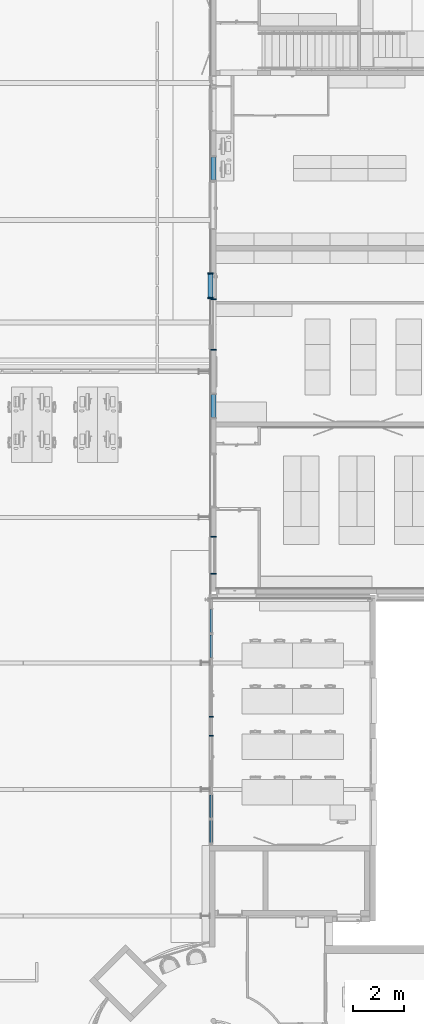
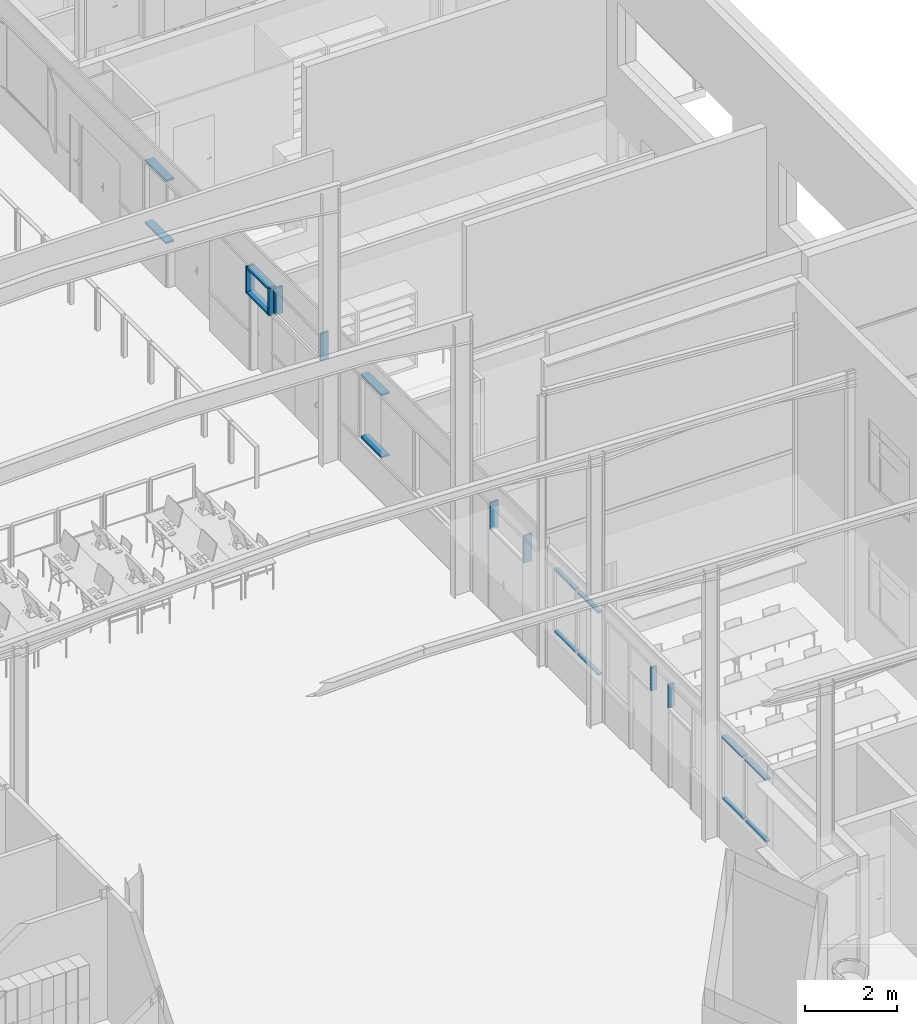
# One storey, part 23 of 137: 22 members, 11 elements without a shape of their own.
"""IFC2X3 building model written with IfcOpenShell, lengths in centimetres."""

import ifcopenshell
import ifcopenshell.guid

model = None  # the IFC model being written
_history = None  # IfcOwnerHistory: only IFC2X3 demands one
_inside = {}  # id of a spatial element -> (the spatial element, [elements in it])
_under = {}  # id of a project, library or spatial element -> (it, [spatial elements below it])
_declared = {}  # id of a project -> (the project, [libraries it declares])
_typed = {}  # id of a type object -> (the type object, [elements of that type])
_made_of = {}  # id of a material, layer set ... -> (it, [elements and type objects made of it])


def new_model(schema):
    """Start an empty IFC model of exactly this schema.

    Asked for "IFC4X3", IfcOpenShell would pick the latest addendum, in which some entities
    have other attributes; the version numbers below select the first issue.
    IFC2X3 requires an IfcOwnerHistory on every rooted entity: one is made here for all.
    """
    global model, _history
    if schema == "IFC4X3":
        model = ifcopenshell.file(schema_version=(4, 3, 0, 0))
    else:
        model = ifcopenshell.file(schema=schema)
    _inside.clear()
    _under.clear()
    _declared.clear()
    _typed.clear()
    _made_of.clear()
    _history = None
    if model.schema == "IFC2X3":
        org = make("IfcOrganization", Name="unknown")
        user = make(
            "IfcPersonAndOrganization",
            ThePerson=make("IfcPerson", FamilyName="unknown"),
            TheOrganization=org,
        )
        app = make(
            "IfcApplication",
            ApplicationDeveloper=org,
            Version="unknown",
            ApplicationFullName="unknown",
            ApplicationIdentifier="unknown",
        )
        _history = make(
            "IfcOwnerHistory",
            OwningUser=user,
            OwningApplication=app,
            ChangeAction="ADDED",
            CreationDate=0,
        )
    return model


def make(cls, **values):
    """One entity of the class cls with the attributes given. An attribute that is None is left unset."""
    return model.create_entity(
        cls, **{name: value for name, value in values.items() if value is not None}
    )


def entity(cls, *values):
    """Any entity or typed value of the class cls, its attributes in the order of the schema. None: left unset."""
    e = model.create_entity(cls)
    for i, value in enumerate(values):
        if value is not None:
            e[i] = value
    return e


def rooted(cls, **values):
    """An entity with a GlobalId (a new one), such as an element, a storey or a relation."""
    return make(cls, GlobalId=ifcopenshell.guid.new(), OwnerHistory=_history, **values)


def si_unit(unit_type, name, prefix=None):
    """IfcSIUnit, for example si_unit("LENGTHUNIT", "METRE", prefix="MILLI")."""
    return make("IfcSIUnit", UnitType=unit_type, Prefix=prefix, Name=name)


def converted_unit(unit_type, name, factor, base, dimensions=None, offset=None):
    """IfcConversionBasedUnit, such as the inch: factor (a typed value) times the base unit."""
    return make(
        "IfcConversionBasedUnit"
        if offset is None
        else "IfcConversionBasedUnitWithOffset",
        ConversionOffset=offset,
        Dimensions=None
        if dimensions is None
        else entity("IfcDimensionalExponents", *dimensions),
        UnitType=unit_type,
        Name=name,
        ConversionFactor=make(
            "IfcMeasureWithUnit", ValueComponent=factor, UnitComponent=base
        ),
    )


def derived_unit(unit_type, elements):
    """IfcDerivedUnit: a product of units, each with its exponent."""
    return make(
        "IfcDerivedUnit",
        Elements=[
            make("IfcDerivedUnitElement", Unit=unit, Exponent=power)
            for unit, power in elements
        ],
        UnitType=unit_type,
    )


def assignment(units):
    """IfcUnitAssignment: the units of a project."""
    return None if units is None else make("IfcUnitAssignment", Units=units)


def point(xyz):
    """IfcCartesianPoint."""
    return None if xyz is None else make("IfcCartesianPoint", Coordinates=xyz)


def direction(xyz):
    """IfcDirection."""
    return None if xyz is None else make("IfcDirection", DirectionRatios=xyz)


def frame(location, z_axis=None, x_axis=None):
    """IfcAxis2Placement3D, a coordinate frame: its origin and axes. An axis left out is left unset."""
    return make(
        "IfcAxis2Placement3D",
        Location=point(location),
        Axis=direction(z_axis),
        RefDirection=direction(x_axis),
    )


def frame_2d(location, x_axis=None):
    """IfcAxis2Placement2D, a coordinate frame in the plane: its origin and x axis."""
    return make(
        "IfcAxis2Placement2D", Location=point(location), RefDirection=direction(x_axis)
    )


def origin():
    """The frame at (0, 0, 0) with its axes left unset."""
    return frame((0.0, 0.0, 0.0))


def origin_2d_with_axis():
    """The frame at (0, 0) in the plane with the x axis (1, 0) written out."""
    return frame_2d((0.0, 0.0), x_axis=(1.0, 0.0))


def place(relative_to, where):
    """IfcLocalPlacement: puts the frame where relative to a parent placement (None: the world)."""
    return make(
        "IfcLocalPlacement", PlacementRelTo=relative_to, RelativePlacement=where
    )


def context(
    kind, dimensions, precision=None, world=None, true_north=None, identifier=None
):
    """IfcGeometricRepresentationContext, for example the 3D "Model" context."""
    return make(
        "IfcGeometricRepresentationContext",
        ContextIdentifier=identifier,
        ContextType=kind,
        CoordinateSpaceDimension=dimensions,
        Precision=precision,
        WorldCoordinateSystem=world,
        TrueNorth=true_north,
    )


def subcontext(parent, identifier, kind, view, scale=None):
    """IfcGeometricRepresentationSubContext, for example "Body" below "Model"."""
    return make(
        "IfcGeometricRepresentationSubContext",
        ContextIdentifier=identifier,
        ContextType=kind,
        ParentContext=parent,
        TargetScale=scale,
        TargetView=view,
    )


def project(units=None, contexts=None):
    """IfcProject with its units and contexts."""
    return rooted(
        "IfcProject",
        Name="project",
        RepresentationContexts=contexts,
        UnitsInContext=assignment(units),
    )


def spatial(cls, under=None, at=None, **own):
    """A site, building, storey or space (cls), placed at a placement, below another one or the project."""
    s = rooted(cls, ObjectPlacement=at, **own)
    if under is not None:
        _under.setdefault(under.id(), (under, []))[1].append(s)
    return s


def profile(cls, at=None, kind="AREA", **sizes):
    """A parametric profile (cls). Its sizes go by their IFC names, for example OverallWidth=200.0."""
    return make(cls, ProfileType=kind, Position=at, **sizes)


def rectangle(**sizes):
    """IfcRectangleProfileDef."""
    return profile("IfcRectangleProfileDef", **sizes)


def extrude(swept, where, along, depth):
    """IfcExtrudedAreaSolid: the profile swept, set in the frame where, extruded along a direction by depth."""
    return make(
        "IfcExtrudedAreaSolid",
        SweptArea=swept,
        Position=where,
        ExtrudedDirection=direction(along),
        Depth=depth,
    )


def shape(context_of_items, identifier, shape_type, items):
    """IfcShapeRepresentation: the items that make up one representation, for example the "Body"."""
    return make(
        "IfcShapeRepresentation",
        ContextOfItems=context_of_items,
        RepresentationIdentifier=identifier,
        RepresentationType=shape_type,
        Items=items,
    )


def material(Name=None, Category=None):
    """IfcMaterial."""
    return make("IfcMaterial", Name=Name, Category=Category)


def made_of(thing, what):
    """Note that an element or type object is made of a material, layer set ...; save() writes the relation."""
    if what is not None:
        _made_of.setdefault(what.id(), (what, []))[1].append(thing)
    return thing


def type_object(cls, material=None, **own):
    """A type object (cls), such as IfcWallType, which elements share."""
    return made_of(rooted(cls, **own), material)


def element(
    cls,
    number,
    at=None,
    inside=None,
    cuts=None,
    type_object=None,
    material=None,
    context=None,
    identifier="Body",
    shape_type=None,
    held_by="IfcProductDefinitionShape",
    body=None,
    shapes=None,
    **own,
):
    """One element of the class cls, such as IfcWall. Its Tag is "e" and its number.

    at: its placement. inside: the storey or other place that contains it. cuts: it is an
    opening in that element (IfcRelVoidsElement). A single representation is given by context,
    identifier, shape_type and body (its items); several are given by shapes. held_by: the class
    of the entity that holds the representations. save() writes the other relations.
    """
    e = rooted(cls, Tag="e%d" % number, ObjectPlacement=at, **own)
    if body is not None:
        shapes = [shape(context, identifier, shape_type, body)]
    if shapes is not None:
        e.Representation = make(held_by, Representations=shapes)
    if inside is not None:
        _inside.setdefault(inside.id(), (inside, []))[1].append(e)
    if cuts is not None:
        rooted(
            "IfcRelVoidsElement", RelatingBuildingElement=cuts, RelatedOpeningElement=e
        )
    if type_object is not None:
        _typed.setdefault(type_object.id(), (type_object, []))[1].append(e)
    return made_of(e, material)


def aggregate(whole, parts):
    """IfcRelAggregates: a whole, such as a stair, and the parts it consists of."""
    return rooted("IfcRelAggregates", RelatingObject=whole, RelatedObjects=parts)


def save(model, path):
    """Write the relations noted so far, then the file.

    IfcRelAggregates (storeys below a building ...), IfcRelContainedInSpatialStructure (elements
    in a storey), IfcRelDefinesByType, IfcRelAssociatesMaterial and IfcRelDeclares: one each for
    every whole, place, type object, material and project.
    """
    for whole, parts in _under.values():
        aggregate(whole, parts)
    for where, things in _inside.values():
        rooted(
            "IfcRelContainedInSpatialStructure",
            RelatedElements=things,
            RelatingStructure=where,
        )
    for kind, things in _typed.values():
        rooted("IfcRelDefinesByType", RelatedObjects=things, RelatingType=kind)
    for what, things in _made_of.values():
        rooted("IfcRelAssociatesMaterial", RelatedObjects=things, RelatingMaterial=what)
    for by, libraries in _declared.values():
        rooted("IfcRelDeclares", RelatingContext=by, RelatedDefinitions=libraries)
    model.write(path)


model = new_model("IFC2X3")

# Units and contexts
model_context = context("Model", 3, precision=0.001, world=origin(), true_north=direction((6.12303176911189e-17, 1.0)))
body_context = subcontext(model_context, "Body", "Model", "MODEL_VIEW")
ifc_project = project(units=[si_unit("LENGTHUNIT", "METRE", prefix="CENTI"), si_unit("AREAUNIT", "SQUARE_METRE"), si_unit("VOLUMEUNIT", "CUBIC_METRE"), converted_unit("PLANEANGLEUNIT", "DEGREE", entity("IfcRatioMeasure", 0.0174532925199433), si_unit("PLANEANGLEUNIT", "RADIAN"), dimensions=[0, 0, 0, 0, 0, 0, 0]), si_unit("MASSUNIT", "GRAM", prefix="KILO"), si_unit("TIMEUNIT", "SECOND"), si_unit("FREQUENCYUNIT", "HERTZ"), si_unit("THERMODYNAMICTEMPERATUREUNIT", "DEGREE_CELSIUS"), derived_unit("THERMALTRANSMITTANCEUNIT", [(si_unit("MASSUNIT", "GRAM", prefix="KILO"), 1), (si_unit("THERMODYNAMICTEMPERATUREUNIT", "KELVIN"), -1), (si_unit("TIMEUNIT", "SECOND"), -3)]), derived_unit("VOLUMETRICFLOWRATEUNIT", [(si_unit("LENGTHUNIT", "METRE"), 3), (si_unit("TIMEUNIT", "SECOND"), -1)]), si_unit("ELECTRICCURRENTUNIT", "AMPERE"), si_unit("ELECTRICVOLTAGEUNIT", "VOLT"), si_unit("POWERUNIT", "WATT"), si_unit("FORCEUNIT", "NEWTON", prefix="KILO"), si_unit("ILLUMINANCEUNIT", "LUX"), si_unit("LUMINOUSFLUXUNIT", "LUMEN"), si_unit("LUMINOUSINTENSITYUNIT", "CANDELA"), derived_unit("USERDEFINED", [(si_unit("MASSUNIT", "GRAM", prefix="KILO"), -1), (si_unit("LENGTHUNIT", "METRE"), -2), (si_unit("TIMEUNIT", "SECOND"), 3), (si_unit("LUMINOUSFLUXUNIT", "LUMEN"), 1)]), derived_unit("LINEARVELOCITYUNIT", [(si_unit("LENGTHUNIT", "METRE"), 1), (si_unit("TIMEUNIT", "SECOND"), -1)]), si_unit("PRESSUREUNIT", "PASCAL"), derived_unit("USERDEFINED", [(si_unit("LENGTHUNIT", "METRE"), -2), (si_unit("MASSUNIT", "GRAM", prefix="KILO"), 1), (si_unit("TIMEUNIT", "SECOND"), -2)])], contexts=[model_context])

# Site, building, storey
site_placement = place(None, frame((8.62739174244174, -249.285249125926, 0.0)))
site = spatial("IfcSite", under=ifc_project, at=site_placement, Name="Default", CompositionType="ELEMENT")
building_placement = place(site_placement, origin())
building = spatial("IfcBuilding", under=site, at=building_placement, CompositionType="ELEMENT")
storey_placement = place(building_placement, origin())
storey = spatial("IfcBuildingStorey", under=building, at=storey_placement, Name="RDC", CompositionType="ELEMENT", Elevation=-8.82465566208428e-11)

# Curtain wall, members
curtain_wall_type = type_object("IfcCurtainWallType", Name="Mur-rideau:Simple panneau", PredefinedType="NOTDEFINED")
curtain_wall_1_placement = place(storey_placement, origin())
curtain_wall_1 = element("IfcCurtainWall", 1, at=curtain_wall_1_placement, inside=storey, type_object=curtain_wall_type, Name="Mur-rideau:Simple panneau", ObjectType="Mur-rideau:Simple panneau")
ifc_material = material(Name="Plastique, blanc opaque")
member_1_placement = place(curtain_wall_1_placement, origin())
member_1 = element("IfcMember", 2, at=member_1_placement, material=ifc_material, Name="Mur-rideau:Simple panneau", ObjectType="Mur-rideau:Simple panneau", context=body_context, shape_type="SweptSolid", body=[
    extrude(rectangle(XDim=5.0, YDim=19.9999999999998, at=frame_2d((2.70894418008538e-14, 0.0), x_axis=(1.0, 0.0))), frame((3043.90482779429, 3422.18519336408, 277.500000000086), z_axis=(0.0, -1.0, 0.0), x_axis=(0.0, 0.0, -1.0)), (0.0, 0.0, 1.0), 90.0000000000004),
])
member_2_placement = place(curtain_wall_1_placement, origin())
member_2 = element("IfcMember", 3, at=member_2_placement, material=ifc_material, Name="Mur-rideau:Simple panneau", ObjectType="Mur-rideau:Simple panneau", context=body_context, shape_type="SweptSolid", body=[
    extrude(rectangle(XDim=5.0, YDim=19.9999999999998, at=origin_2d_with_axis()), frame((3043.90482779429, 3332.18519336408, 112.500000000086), z_axis=(0.0, 1.0, 0.0), x_axis=(0.0, 0.0, -1.0)), (0.0, 0.0, 1.0), 90.0000000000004),
])
aggregate(curtain_wall_1, [member_1, member_2])

curtain_wall_2_placement = place(storey_placement, origin())
curtain_wall_2 = element("IfcCurtainWall", 4, at=curtain_wall_2_placement, inside=storey, type_object=curtain_wall_type, Name="Mur-rideau:Simple panneau", ObjectType="Mur-rideau:Simple panneau")
member_3_placement = place(curtain_wall_2_placement, origin())
member_3 = element("IfcMember", 5, at=member_3_placement, material=ifc_material, Name="Mur-rideau:Simple panneau", ObjectType="Mur-rideau:Simple panneau", context=body_context, shape_type="SweptSolid", body=[
    extrude(rectangle(XDim=19.9999999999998, YDim=5.00000000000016, at=frame_2d((0.0, 2.16715534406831e-13), x_axis=(1.0, 0.0))), frame((3043.90482779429, 2860.34806445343, 280.0), z_axis=(0.0, 0.0, -1.0), x_axis=(-1.0, 0.0, 0.0)), (0.0, 0.0, 1.0), 71.9999999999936),
])
member_4_placement = place(curtain_wall_2_placement, origin())
member_4 = element("IfcMember", 6, at=member_4_placement, material=ifc_material, Name="Mur-rideau:Simple panneau", ObjectType="Mur-rideau:Simple panneau", context=body_context, shape_type="SweptSolid", body=[
    extrude(rectangle(XDim=19.9999999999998, YDim=5.00000000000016, at=frame_2d((4.33431068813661e-13, 2.16715534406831e-13), x_axis=(1.0, 0.0))), frame((3043.90482779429, 2714.34806445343, 208.0), z_axis=(0.0, 0.0, 1.0), x_axis=(-1.0, 0.0, 0.0)), (0.0, 0.0, 1.0), 71.9999999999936),
])
aggregate(curtain_wall_2, [member_3, member_4])

curtain_wall_3_placement = place(storey_placement, origin())
curtain_wall_3 = element("IfcCurtainWall", 7, at=curtain_wall_3_placement, inside=storey, type_object=curtain_wall_type, Name="Mur-rideau:Simple panneau", ObjectType="Mur-rideau:Simple panneau")
member_5_placement = place(curtain_wall_3_placement, origin())
member_5 = element("IfcMember", 8, at=member_5_placement, material=ifc_material, Name="Mur-rideau:Simple panneau", ObjectType="Mur-rideau:Simple panneau", context=body_context, shape_type="SweptSolid", body=[
    extrude(rectangle(XDim=19.9999999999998, YDim=5.00000000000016, at=frame_2d((0.0, 2.16715534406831e-13), x_axis=(1.0, 0.0))), frame((3031.90482779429, 3900.6851933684, 280.0), z_axis=(0.0, 0.0, -1.0), x_axis=(-1.0, 0.0, 0.0)), (0.0, 0.0, 1.0), 71.9999999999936),
])
member_6_placement = place(curtain_wall_3_placement, origin())
member_6 = element("IfcMember", 9, at=member_6_placement, material=ifc_material, Name="Mur-rideau:Simple panneau", ObjectType="Mur-rideau:Simple panneau", context=body_context, shape_type="SweptSolid", body=[
    extrude(rectangle(XDim=5.0, YDim=19.9999999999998, at=frame_2d((2.70894418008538e-14, 0.0), x_axis=(1.0, 0.0))), frame((3031.90482779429, 3806.18519336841, 277.500000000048), z_axis=(0.0, 1.0, 0.0), x_axis=(0.0, 0.0, -1.0)), (0.0, 0.0, 1.0), 91.9999999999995),
])
member_7_placement = place(curtain_wall_3_placement, origin())
member_7 = element("IfcMember", 10, at=member_7_placement, material=ifc_material, Name="Mur-rideau:Simple panneau", ObjectType="Mur-rideau:Simple panneau", context=body_context, shape_type="SweptSolid", body=[
    extrude(rectangle(XDim=19.9999999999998, YDim=5.00000000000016, at=frame_2d((-4.33431068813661e-13, -2.16715534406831e-13), x_axis=(1.0, 0.0))), frame((3031.90482779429, 3803.68519336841, 208.0), z_axis=(0.0, 0.0, 1.0), x_axis=(-1.0, 0.0, 0.0)), (0.0, 0.0, 1.0), 71.9999999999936),
])
member_8_placement = place(curtain_wall_3_placement, origin())
member_8 = element("IfcMember", 11, at=member_8_placement, material=ifc_material, Name="Mur-rideau:Simple panneau", ObjectType="Mur-rideau:Simple panneau", context=body_context, shape_type="SweptSolid", body=[
    extrude(rectangle(XDim=5.0, YDim=19.9999999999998, at=origin_2d_with_axis()), frame((3031.90482779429, 3898.1851933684, 210.500000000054), z_axis=(0.0, -1.0, 0.0), x_axis=(0.0, 0.0, -1.0)), (0.0, 0.0, 1.0), 91.9999999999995),
])
aggregate(curtain_wall_3, [member_5, member_6, member_7, member_8])

curtain_wall_4_placement = place(storey_placement, origin())
curtain_wall_4 = element("IfcCurtainWall", 12, at=curtain_wall_4_placement, inside=storey, type_object=curtain_wall_type, Name="Mur-rideau:Simple panneau", ObjectType="Mur-rideau:Simple panneau")
member_9_placement = place(curtain_wall_4_placement, origin())
member_9 = element("IfcMember", 13, at=member_9_placement, material=ifc_material, Name="Mur-rideau:Simple panneau", ObjectType="Mur-rideau:Simple panneau", context=body_context, shape_type="SweptSolid", body=[
    extrude(rectangle(XDim=5.0, YDim=19.9999999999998, at=frame_2d((2.70894418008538e-14, 0.0), x_axis=(1.0, 0.0))), frame((3043.9048277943, 4360.18519336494, 277.500000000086), z_axis=(0.0, -1.0, 0.0), x_axis=(0.0, 0.0, -1.0)), (0.0, 0.0, 1.0), 90.0000000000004),
])
member_10_placement = place(curtain_wall_4_placement, origin())
member_10 = element("IfcMember", 14, at=member_10_placement, material=ifc_material, Name="Mur-rideau:Simple panneau", ObjectType="Mur-rideau:Simple panneau", context=body_context, shape_type="SweptSolid", body=[
    extrude(rectangle(XDim=5.0, YDim=19.9999999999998, at=frame_2d((0.0, -4.33431068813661e-13), x_axis=(1.0, 0.0))), frame((3043.9048277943, 4270.18519336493, 112.500000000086), z_axis=(0.0, 1.0, 0.0), x_axis=(0.0, 0.0, -1.0)), (0.0, 0.0, 1.0), 90.0000000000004),
])
aggregate(curtain_wall_4, [member_9, member_10])

# Curtain wall, member
curtain_wall_5_placement = place(storey_placement, origin())
curtain_wall_5 = element("IfcCurtainWall", 15, at=curtain_wall_5_placement, inside=storey, type_object=curtain_wall_type, Name="Mur-rideau:Simple panneau", ObjectType="Mur-rideau:Simple panneau")
member_11_placement = place(curtain_wall_5_placement, origin())
member_11 = element("IfcMember", 16, at=member_11_placement, material=ifc_material, Name="Mur-rideau:Simple panneau:661", ObjectType="Mur-rideau:Simple panneau:661", context=body_context, shape_type="SweptSolid", body=[
    extrude(rectangle(XDim=15.0000000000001, YDim=5.00000000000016, at=frame_2d((0.0, 2.16715534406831e-13), x_axis=(1.0, 0.0))), frame((3034.90482780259, 2149.48020807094, 275.0), z_axis=(0.0, 0.0, -1.0), x_axis=(-1.0, 0.0, 0.0)), (0.0, 0.0, 1.0), 62.0),
])
aggregate(curtain_wall_5, [member_11])

# Curtain wall, members
curtain_wall_6_placement = place(storey_placement, origin())
curtain_wall_6 = element("IfcCurtainWall", 17, at=curtain_wall_6_placement, inside=storey, type_object=curtain_wall_type, Name="Mur-rideau:Simple panneau", ObjectType="Mur-rideau:Simple panneau")
member_12_placement = place(curtain_wall_6_placement, origin())
member_12 = element("IfcMember", 18, at=member_12_placement, material=ifc_material, Name="Mur-rideau:Simple panneau:661", ObjectType="Mur-rideau:Simple panneau:661", context=body_context, shape_type="SweptSolid", body=[
    extrude(rectangle(XDim=5.0, YDim=15.0000000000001, at=frame_2d((2.70894418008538e-14, 0.0), x_axis=(1.0, 0.0))), frame((3034.90482780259, 1750.98020806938, 277.500000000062), z_axis=(0.0, 1.0, 0.0), x_axis=(0.0, 0.0, -1.0)), (0.0, 0.0, 1.0), 90.0000000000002),
])
member_13_placement = place(curtain_wall_6_placement, origin())
member_13 = element("IfcMember", 19, at=member_13_placement, material=ifc_material, Name="Mur-rideau:Simple panneau", ObjectType="Mur-rideau:Simple panneau", context=body_context, shape_type="SweptSolid", body=[
    extrude(rectangle(XDim=5.0, YDim=10.0000000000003, at=frame_2d((0.0, 4.33431068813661e-13), x_axis=(1.0, 0.0))), frame((3034.90482780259, 1840.98020806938, 112.500000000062), z_axis=(0.0, -1.0, 0.0), x_axis=(0.0, 0.0, -1.0)), (0.0, 0.0, 1.0), 89.9999999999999),
])
aggregate(curtain_wall_6, [member_12, member_13])

curtain_wall_7_placement = place(storey_placement, origin())
curtain_wall_7 = element("IfcCurtainWall", 20, at=curtain_wall_7_placement, inside=storey, type_object=curtain_wall_type, Name="Mur-rideau:Simple panneau", ObjectType="Mur-rideau:Simple panneau")
member_14_placement = place(curtain_wall_7_placement, origin())
member_14 = element("IfcMember", 21, at=member_14_placement, material=ifc_material, Name="Mur-rideau:Simple panneau:661", ObjectType="Mur-rideau:Simple panneau:661", context=body_context, shape_type="SweptSolid", body=[
    extrude(rectangle(XDim=5.0, YDim=15.0000000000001, at=frame_2d((2.70894418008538e-14, 0.0), x_axis=(1.0, 0.0))), frame((3034.90482780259, 1650.98020806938, 277.500000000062), z_axis=(0.0, 1.0, 0.0), x_axis=(0.0, 0.0, -1.0)), (0.0, 0.0, 1.0), 90.0000000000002),
])
member_15_placement = place(curtain_wall_7_placement, origin())
member_15 = element("IfcMember", 22, at=member_15_placement, material=ifc_material, Name="Mur-rideau:Simple panneau", ObjectType="Mur-rideau:Simple panneau", context=body_context, shape_type="SweptSolid", body=[
    extrude(rectangle(XDim=5.0, YDim=10.0000000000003, at=frame_2d((0.0, 4.33431068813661e-13), x_axis=(1.0, 0.0))), frame((3034.90482780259, 1740.98020806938, 112.500000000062), z_axis=(0.0, -1.0, 0.0), x_axis=(0.0, 0.0, -1.0)), (0.0, 0.0, 1.0), 89.9999999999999),
])
aggregate(curtain_wall_7, [member_14, member_15])

# Curtain wall, member
curtain_wall_8_placement = place(storey_placement, origin())
curtain_wall_8 = element("IfcCurtainWall", 23, at=curtain_wall_8_placement, inside=storey, type_object=curtain_wall_type, Name="Mur-rideau:Simple panneau", ObjectType="Mur-rideau:Simple panneau")
member_16_placement = place(curtain_wall_8_placement, origin())
member_16 = element("IfcMember", 24, at=member_16_placement, material=ifc_material, Name="Mur-rideau:Simple panneau:661", ObjectType="Mur-rideau:Simple panneau:661", context=body_context, shape_type="SweptSolid", body=[
    extrude(rectangle(XDim=15.0000000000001, YDim=5.00000000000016, at=frame_2d((0.0, 2.16715534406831e-13), x_axis=(1.0, 0.0))), frame((3034.90482780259, 2074.48020807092, 275.0), z_axis=(0.0, 0.0, -1.0), x_axis=(-1.0, 0.0, 0.0)), (0.0, 0.0, 1.0), 62.0),
])
aggregate(curtain_wall_8, [member_16])

# Curtain wall, members
curtain_wall_9_placement = place(storey_placement, origin())
curtain_wall_9 = element("IfcCurtainWall", 25, at=curtain_wall_9_placement, inside=storey, type_object=curtain_wall_type, Name="Mur-rideau:Simple panneau", ObjectType="Mur-rideau:Simple panneau")
member_17_placement = place(curtain_wall_9_placement, origin())
member_17 = element("IfcMember", 26, at=member_17_placement, material=ifc_material, Name="Mur-rideau:Simple panneau", ObjectType="Mur-rideau:Simple panneau", context=body_context, shape_type="SweptSolid", body=[
    extrude(rectangle(XDim=5.0, YDim=10.0000000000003, at=frame_2d((2.70894418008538e-14, 4.33431068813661e-13), x_axis=(1.0, 0.0))), frame((3034.90482780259, 2482.98020806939, 277.500000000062), z_axis=(0.0, 1.0, 0.0), x_axis=(0.0, 0.0, -1.0)), (0.0, 0.0, 1.0), 89.9999999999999),
])
member_18_placement = place(curtain_wall_9_placement, origin())
member_18 = element("IfcMember", 27, at=member_18_placement, material=ifc_material, Name="Mur-rideau:Simple panneau", ObjectType="Mur-rideau:Simple panneau", context=body_context, shape_type="SweptSolid", body=[
    extrude(rectangle(XDim=5.0, YDim=10.0000000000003, at=origin_2d_with_axis()), frame((3034.90482780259, 2572.98020806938, 112.500000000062), z_axis=(0.0, -1.0, 0.0), x_axis=(0.0, 0.0, -1.0)), (0.0, 0.0, 1.0), 89.9999999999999),
])
aggregate(curtain_wall_9, [member_17, member_18])

curtain_wall_10_placement = place(storey_placement, origin())
curtain_wall_10 = element("IfcCurtainWall", 28, at=curtain_wall_10_placement, inside=storey, type_object=curtain_wall_type, Name="Mur-rideau:Simple panneau", ObjectType="Mur-rideau:Simple panneau")
member_19_placement = place(curtain_wall_10_placement, origin())
member_19 = element("IfcMember", 29, at=member_19_placement, material=ifc_material, Name="Mur-rideau:Simple panneau", ObjectType="Mur-rideau:Simple panneau", context=body_context, shape_type="SweptSolid", body=[
    extrude(rectangle(XDim=5.0, YDim=10.0000000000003, at=frame_2d((2.70894418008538e-14, 4.33431068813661e-13), x_axis=(1.0, 0.0))), frame((3034.90482780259, 2382.98020806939, 277.500000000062), z_axis=(0.0, 1.0, 0.0), x_axis=(0.0, 0.0, -1.0)), (0.0, 0.0, 1.0), 89.9999999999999),
])
member_20_placement = place(curtain_wall_10_placement, origin())
member_20 = element("IfcMember", 30, at=member_20_placement, material=ifc_material, Name="Mur-rideau:Simple panneau", ObjectType="Mur-rideau:Simple panneau", context=body_context, shape_type="SweptSolid", body=[
    extrude(rectangle(XDim=5.0, YDim=10.0000000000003, at=origin_2d_with_axis()), frame((3034.90482780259, 2472.98020806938, 112.500000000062), z_axis=(0.0, -1.0, 0.0), x_axis=(0.0, 0.0, -1.0)), (0.0, 0.0, 1.0), 89.9999999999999),
])
aggregate(curtain_wall_10, [member_19, member_20])

curtain_wall_11_placement = place(storey_placement, origin())
curtain_wall_11 = element("IfcCurtainWall", 31, at=curtain_wall_11_placement, inside=storey, type_object=curtain_wall_type, Name="Mur-rideau:Simple panneau", ObjectType="Mur-rideau:Simple panneau")
member_21_placement = place(curtain_wall_11_placement, origin())
member_21 = element("IfcMember", 32, at=member_21_placement, material=ifc_material, Name="Mur-rideau:Simple panneau", ObjectType="Mur-rideau:Simple panneau", context=body_context, shape_type="SweptSolid", body=[
    extrude(rectangle(XDim=19.9999999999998, YDim=5.00000000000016, at=frame_2d((0.0, 2.16715534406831e-13), x_axis=(1.0, 0.0))), frame((3043.90482779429, 3798.68519336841, 208.499999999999), z_axis=(0.0, 0.0, 1.0), x_axis=(-1.0, 0.0, 0.0)), (0.0, 0.0, 1.0), 71.5000000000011),
])
member_22_placement = place(curtain_wall_11_placement, origin())
member_22 = element("IfcMember", 33, at=member_22_placement, material=ifc_material, Name="Mur-rideau:Simple panneau", ObjectType="Mur-rideau:Simple panneau", context=body_context, shape_type="SweptSolid", body=[
    extrude(rectangle(XDim=19.9999999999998, YDim=5.00000000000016, at=frame_2d((0.0, -2.16715534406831e-13), x_axis=(1.0, 0.0))), frame((3043.90482779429, 3599.1851933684, 280.0), z_axis=(0.0, 0.0, -1.0), x_axis=(-1.0, 0.0, 0.0)), (0.0, 0.0, 1.0), 71.5000000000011),
])
aggregate(curtain_wall_11, [member_21, member_22])

save(model, "model.ifc")
